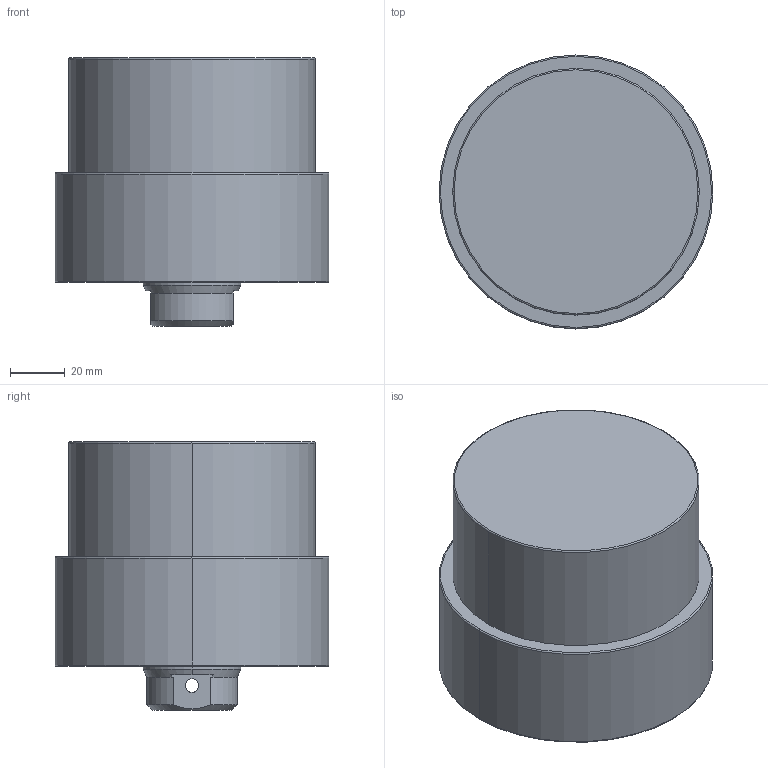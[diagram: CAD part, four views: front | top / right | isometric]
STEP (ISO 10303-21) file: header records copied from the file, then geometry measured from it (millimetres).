
FILE_DESCRIPTION (( 'STEP AP203' ), '1' );
FILE_NAME ('CLLU-090GB-020.STEP', '2020-01-11T00:51:49', ( '' ), ( '' ), 'SwSTEP 2.0', 'SolidWorks 2015', '' );
FILE_SCHEMA (( 'CONFIG_CONTROL_DESIGN' ));
Length unit declared in the file: millimetre
Products named in the file (1): CLLU-090GB-020
Bounding box: 100 x 100 x 98 mm (x, y, z)
Volume: 576652.3 mm3; surface area: 46847.8 mm2
Topology: 1 solids, 1 shells, 66 faces, 154 edges, 87 vertices
Faces by surface type: cylinder 26, cone 24, plane 10, torus 6
Entity records: 2029 total; most frequent: CARTESIAN_POINT 458, DIRECTION 342, ORIENTED_EDGE 288, EDGE_CURVE 144, AXIS2_PLACEMENT_3D 143, VERTEX_POINT 87, EDGE_LOOP 77, CIRCLE 76
